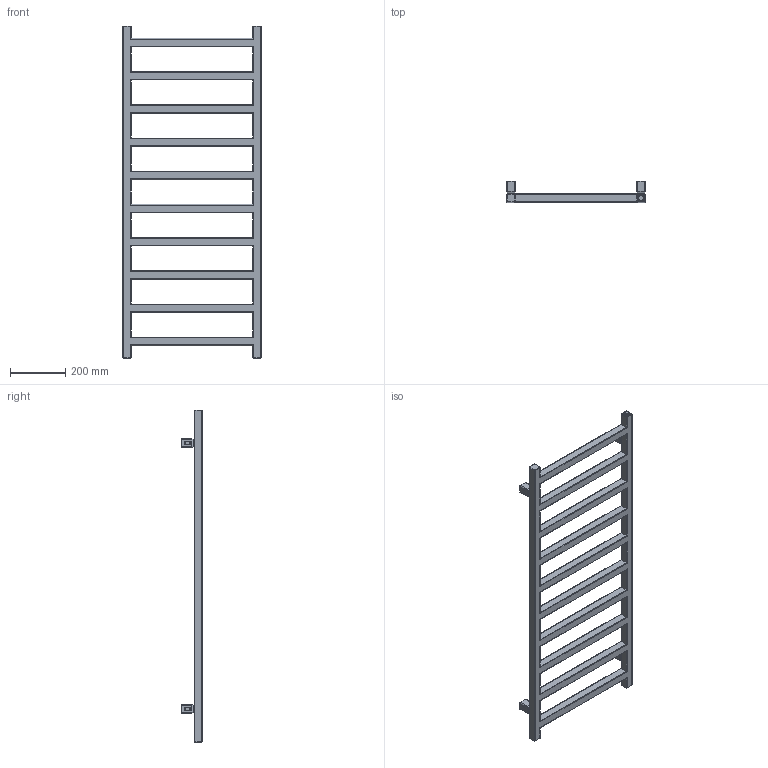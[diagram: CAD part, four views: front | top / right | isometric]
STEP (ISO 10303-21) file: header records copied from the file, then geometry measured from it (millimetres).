
FILE_DESCRIPTION((''),'2;1');
FILE_NAME('Z:\R\G\P\RGP035 - Grzejnik Simple\Work\Inventor\Marketing\AutoCad 3D\G-SI-XX-MK-XX-12-50-SX.stp','2012-07-24T14:00:56',('DawPi'),(''),'Autodesk Inventor 2012','Autodesk Inventor 2012','');
FILE_SCHEMA(('AUTOMOTIVE_DESIGN { 1 0 10303 214 1 1 1 1 }'));
Length unit declared in the file: millimetre
Products named in the file (3): G-SI-XX-MK-XX-12-50-SX; MKT42-00-A v0.2
Assembly tree (5 placements, depth 2):
  G-SI-XX-MK-XX-12-50-SX
    G-SI-XX-MK-XX-12-50-SX
    MKT42-00-A v0.2  x4
Bounding box: 503.98 x 74.5 x 1200 mm (x, y, z)
Volume: 6237393.2 mm3; surface area: 810276.3 mm2
Topology: 5 solids, 5 shells, 455 faces, 1139 edges, 725 vertices
Faces by surface type: cylinder 215, plane 169, bspline 60, torus 11
Full cylindrical faces by diameter (mm): 4.134 x4, 10 x4, 12 x4, 18.631 x3
Entity records: 9777 total; most frequent: CARTESIAN_POINT 3421, ORIENTED_EDGE 1310, DIRECTION 1268, EDGE_CURVE 655, AXIS2_PLACEMENT_3D 470, VERTEX_POINT 431, VECTOR 328, LINE 328
